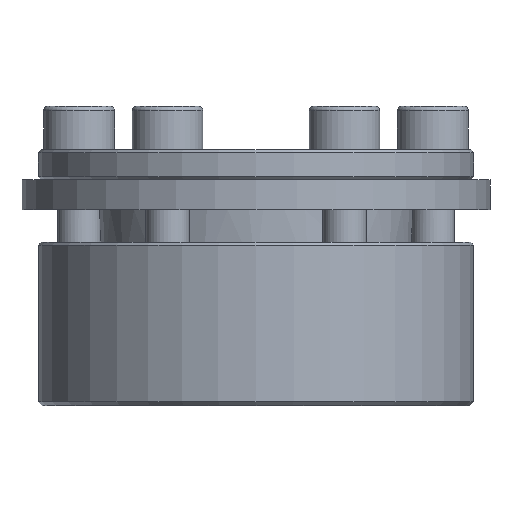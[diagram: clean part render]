
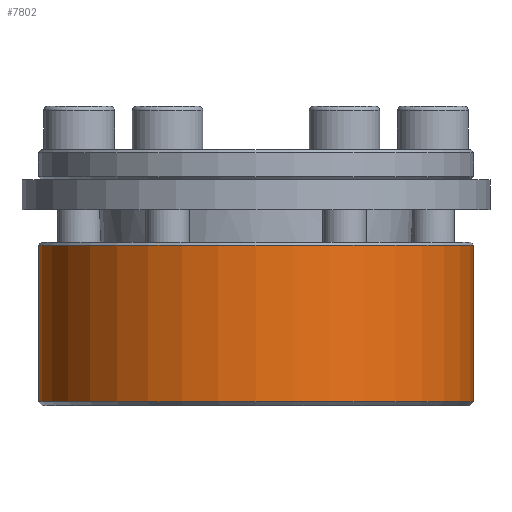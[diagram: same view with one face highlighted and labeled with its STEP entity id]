
A CAD part, front view. The second image highlights one B-rep face of the part: STEP entity #7802.
In plain terms, the highlighted cylindrical face has radius 40 mm (diameter 80 mm), a partial arc.
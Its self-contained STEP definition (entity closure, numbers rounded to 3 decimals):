
#4093=CARTESIAN_POINT('',(0.,0.,
-35.25));
#4094=DIRECTION('',(0.,0.,1.));
#4095=DIRECTION('',(-0.025,1.,0.));
#4096=AXIS2_PLACEMENT_3D('',#4093,#4094,#4095);
#4129=DIRECTION('',(0.,0.,-1.));
#4130=VECTOR('',#4129,28.75);
#4131=CARTESIAN_POINT('',(-1.,39.987,-6.5));
#4132=LINE('',#4131,#4130);
#4136=DIRECTION('',(0.,0.,-1.));
#4137=VECTOR('',#4136,28.75);
#4138=CARTESIAN_POINT('',(1.,39.987,-6.5));
#4139=LINE('',#4138,#4137);
#4143=CARTESIAN_POINT('',(0.,0.,
-6.5));
#4144=DIRECTION('',(0.,0.,-1.));
#4145=DIRECTION('',(0.025,1.,0.));
#4146=AXIS2_PLACEMENT_3D('',#4143,#4144,#4145);
#4811=CARTESIAN_POINT('',(1.,39.987,-6.5));
#4812=CARTESIAN_POINT('',(1.,39.987,-35.25));
#4813=VERTEX_POINT('',#4811);
#4814=VERTEX_POINT('',#4812);
#4823=CARTESIAN_POINT('',(-1.,39.987,-6.5));
#4824=CARTESIAN_POINT('',(-1.,39.987,-35.25));
#4825=VERTEX_POINT('',#4823);
#4826=VERTEX_POINT('',#4824);
#7790=CARTESIAN_POINT('',(0.,0.,-4.5));
#7791=DIRECTION('',(0.,0.,-1.));
#7792=DIRECTION('',(0.,-1.,0.));
#7793=AXIS2_PLACEMENT_3D('',#7790,#7791,#7792);
#7794=CYLINDRICAL_SURFACE('',#7793,40.);
#7795=ORIENTED_EDGE('',*,*,#7770,.F.);
#7796=ORIENTED_EDGE('',*,*,#5155,.F.);
#7798=ORIENTED_EDGE('',*,*,#7797,.F.);
#7799=ORIENTED_EDGE('',*,*,#5275,.T.);
#7800=EDGE_LOOP('',(#7795,#7796,#7798,#7799));
#7801=FACE_OUTER_BOUND('',#7800,.F.);
#7802=ADVANCED_FACE('',(#7801),#7794,.T.);
#4097=CIRCLE('',#4096,40.);
#4147=CIRCLE('',#4146,40.);
#5155=EDGE_CURVE('',#4825,#4826,#4132,.T.);
#5275=EDGE_CURVE('',#4813,#4814,#4139,.T.);
#7770=EDGE_CURVE('',#4826,#4814,#4097,.T.);
#7797=EDGE_CURVE('',#4813,#4825,#4147,.T.);
